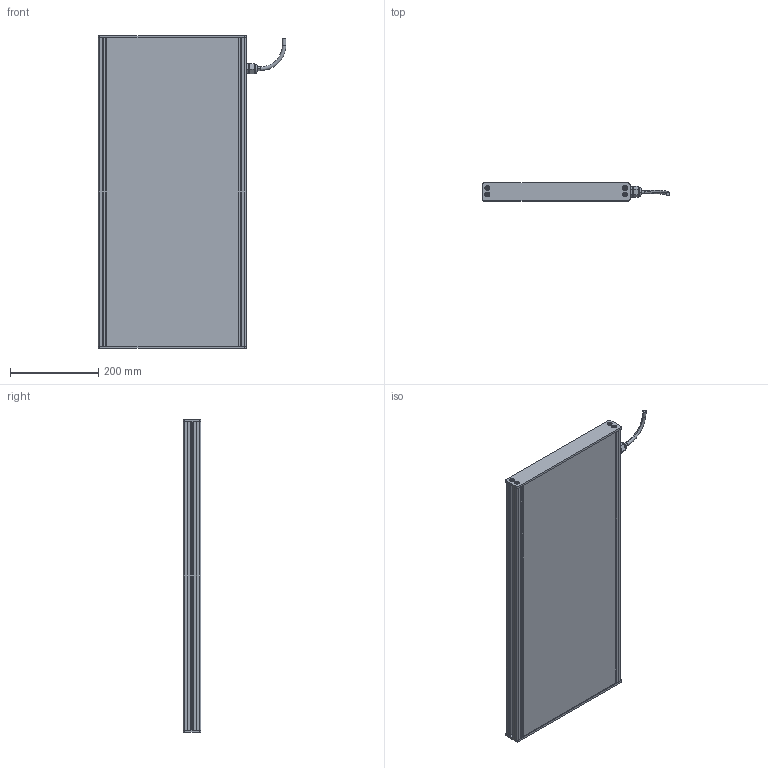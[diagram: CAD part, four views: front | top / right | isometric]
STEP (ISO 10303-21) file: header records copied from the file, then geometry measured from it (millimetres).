
FILE_DESCRIPTION (( 'STEP AP214' ), '1' );
FILE_NAME ('EFFI-BL-300-700T-1M12P.STEP', '2021-07-02T09:30:06', ( '' ), ( '' ), 'SwSTEP 2.0', 'SolidWorks 2021', '' );
FILE_SCHEMA (( 'AUTOMOTIVE_DESIGN' ));
Length unit declared in the file: millimetre
Products named in the file (7): profile modif_lg 99.5 mm; Pièce2^EFFI-BL-XXX-YYYT + M12P; M12 power; bord fin modif_lg 436.5 mm; 003776; EFFI-BL-300-700T-1M12P
Assembly tree (14 placements, depth 2):
  EFFI-BL-300-700T-1M12P
    bord fin modif_lg 436.5 mm  x2
    profile modif_lg 99.5 mm
    Pièce2^EFFI-BL-XXX-YYYT + M12P
    profile modif_lg 99.5 mm
    M12 power
    003776  x8
Bounding box: 426.45 x 40 x 710 mm (x, y, z)
Volume: 8226582.5 mm3; surface area: 760914.3 mm2
Topology: 13 solids, 16 shells, 568 faces, 1441 edges, 923 vertices
Faces by surface type: plane 327, bspline 125, cylinder 94, cone 18, torus 4
Entity records: 15235 total; most frequent: CARTESIAN_POINT 5059, ORIENTED_EDGE 2014, DIRECTION 1715, EDGE_CURVE 1009, VECTOR 755, LINE 755, VERTEX_POINT 666, AXIS2_PLACEMENT_3D 480
